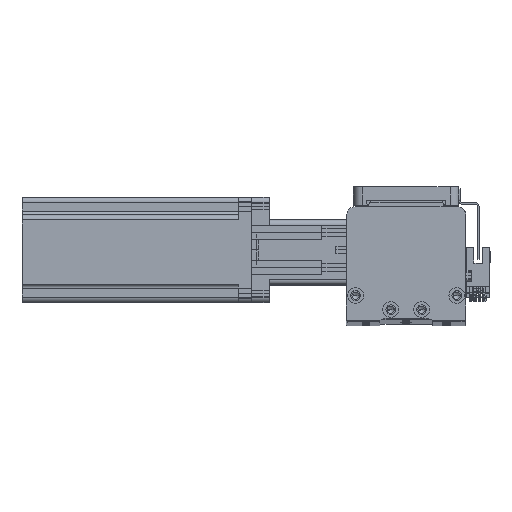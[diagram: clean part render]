
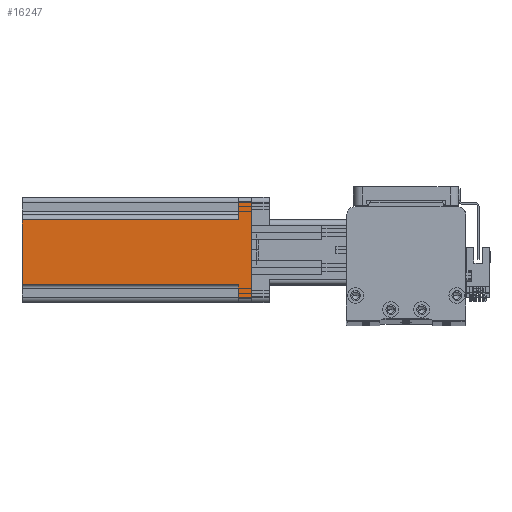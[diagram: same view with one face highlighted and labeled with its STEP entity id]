
A CAD part, top view. The second image highlights one B-rep face of the part: STEP entity #16247.
In plain terms, the highlighted planar face has unit normal (0, 0, 1) as drawn and (-1, 0, 0) by its records, which use the part's own axes.
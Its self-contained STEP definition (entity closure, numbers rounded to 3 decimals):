
#227 = CARTESIAN_POINT ( 'NONE',  ( -30., -17., 130.7 ) ) ;
#1246 = ORIENTED_EDGE ( 'NONE', *, *, #13900, .T. ) ;
#2231 = EDGE_CURVE ( 'NONE', #42121, #39286, #49467, .T. ) ;
#2505 = DIRECTION ( 'NONE',  ( 0., 0., -1. ) ) ;
#2606 = CARTESIAN_POINT ( 'NONE',  ( -30., 30., 7.5 ) ) ;
#2847 = AXIS2_PLACEMENT_3D ( 'NONE', #34176, #10226, #38254 ) ;
#4005 = EDGE_CURVE ( 'NONE', #49559, #15327, #29774, .T. ) ;
#4502 = ORIENTED_EDGE ( 'NONE', *, *, #30194, .T. ) ;
#4875 = ORIENTED_EDGE ( 'NONE', *, *, #16733, .T. ) ;
#5285 = CARTESIAN_POINT ( 'NONE',  ( -30., -30., 130.7 ) ) ;
#5444 = LINE ( 'NONE', #17299, #26786 ) ;
#8833 = ORIENTED_EDGE ( 'NONE', *, *, #9716, .T. ) ;
#9716 = EDGE_CURVE ( 'NONE', #42121, #25046, #32009, .T. ) ;
#10226 = DIRECTION ( 'NONE',  ( 1., 0., 0. ) ) ;
#10693 = VECTOR ( 'NONE', #10768, 1000. ) ;
#10752 = ORIENTED_EDGE ( 'NONE', *, *, #36625, .F. ) ;
#10768 = DIRECTION ( 'NONE',  ( 0., 1., 0. ) ) ;
#11144 = CARTESIAN_POINT ( 'NONE',  ( -30., 27., 0. ) ) ;
#13900 = EDGE_CURVE ( 'NONE', #51557, #16261, #34710, .T. ) ;
#15089 = VECTOR ( 'NONE', #2505, 1000. ) ;
#15327 = VERTEX_POINT ( 'NONE', #27935 ) ;
#15805 = VECTOR ( 'NONE', #21328, 1000. ) ;
#16169 = VECTOR ( 'NONE', #45470, 1000. ) ;
#16247 = ADVANCED_FACE ( 'NONE', ( #44685 ), #38075, .F. ) ;
#16261 = VERTEX_POINT ( 'NONE', #50348 ) ;
#16589 = CARTESIAN_POINT ( 'NONE',  ( -30., 20., 130.7 ) ) ;
#16733 = EDGE_CURVE ( 'NONE', #25046, #51557, #25750, .T. ) ;
#16956 = ORIENTED_EDGE ( 'NONE', *, *, #42999, .T. ) ;
#17018 = CARTESIAN_POINT ( 'NONE',  ( -30., 20., 7.5 ) ) ;
#17031 = LINE ( 'NONE', #33243, #15805 ) ;
#17299 = CARTESIAN_POINT ( 'NONE',  ( -30., -17., 130.7 ) ) ;
#18219 = ORIENTED_EDGE ( 'NONE', *, *, #4005, .F. ) ;
#21328 = DIRECTION ( 'NONE',  ( 0., 0., 1. ) ) ;
#22536 = CARTESIAN_POINT ( 'NONE',  ( -30., 27., 130.7 ) ) ;
#23858 = CARTESIAN_POINT ( 'NONE',  ( -30., 27., 7.5 ) ) ;
#24045 = VECTOR ( 'NONE', #37793, 1000. ) ;
#25046 = VERTEX_POINT ( 'NONE', #23858 ) ;
#25665 = CARTESIAN_POINT ( 'NONE',  ( -30., -30., 0. ) ) ;
#25750 = LINE ( 'NONE', #22536, #15089 ) ;
#26786 = VECTOR ( 'NONE', #41387, 1000. ) ;
#26843 = LINE ( 'NONE', #5285, #16169 ) ;
#27935 = CARTESIAN_POINT ( 'NONE',  ( -30., -27., 7.5 ) ) ;
#28312 = CARTESIAN_POINT ( 'NONE',  ( -30., -17., 7.5 ) ) ;
#29774 = LINE ( 'NONE', #34303, #39203 ) ;
#30194 = EDGE_CURVE ( 'NONE', #16261, #15327, #17031, .T. ) ;
#32009 = LINE ( 'NONE', #2606, #10693 ) ;
#33243 = CARTESIAN_POINT ( 'NONE',  ( -30., -27., 130.7 ) ) ;
#34176 = CARTESIAN_POINT ( 'NONE',  ( -30., -30., 130.7 ) ) ;
#34303 = CARTESIAN_POINT ( 'NONE',  ( -30., -30., 7.5 ) ) ;
#34710 = LINE ( 'NONE', #25665, #24045 ) ;
#35592 = CARTESIAN_POINT ( 'NONE',  ( -30., 20., 7.5 ) ) ;
#36625 = EDGE_CURVE ( 'NONE', #39286, #37932, #26843, .T. ) ;
#37793 = DIRECTION ( 'NONE',  ( 0., -1., 0. ) ) ;
#37932 = VERTEX_POINT ( 'NONE', #227 ) ;
#38075 = PLANE ( 'NONE',  #2847 ) ;
#38254 = DIRECTION ( 'NONE',  ( 0., 0., -1. ) ) ;
#39101 = DIRECTION ( 'NONE',  ( 0., 0., 1. ) ) ;
#39203 = VECTOR ( 'NONE', #42419, 1000. ) ;
#39286 = VERTEX_POINT ( 'NONE', #16589 ) ;
#40055 = VECTOR ( 'NONE', #39101, 1000. ) ;
#41387 = DIRECTION ( 'NONE',  ( 0., 0., 1. ) ) ;
#42121 = VERTEX_POINT ( 'NONE', #17018 ) ;
#42419 = DIRECTION ( 'NONE',  ( 0., -1., 0. ) ) ;
#42999 = EDGE_CURVE ( 'NONE', #49559, #37932, #5444, .T. ) ;
#44685 = FACE_OUTER_BOUND ( 'NONE', #47789, .T. ) ;
#45470 = DIRECTION ( 'NONE',  ( 0., -1., 0. ) ) ;
#46837 = ORIENTED_EDGE ( 'NONE', *, *, #2231, .F. ) ;
#47789 = EDGE_LOOP ( 'NONE', ( #18219, #16956, #10752, #46837, #8833, #4875, #1246, #4502 ) ) ;
#49467 = LINE ( 'NONE', #35592, #40055 ) ;
#49559 = VERTEX_POINT ( 'NONE', #28312 ) ;
#50348 = CARTESIAN_POINT ( 'NONE',  ( -30., -27., 0. ) ) ;
#51557 = VERTEX_POINT ( 'NONE', #11144 ) ;
